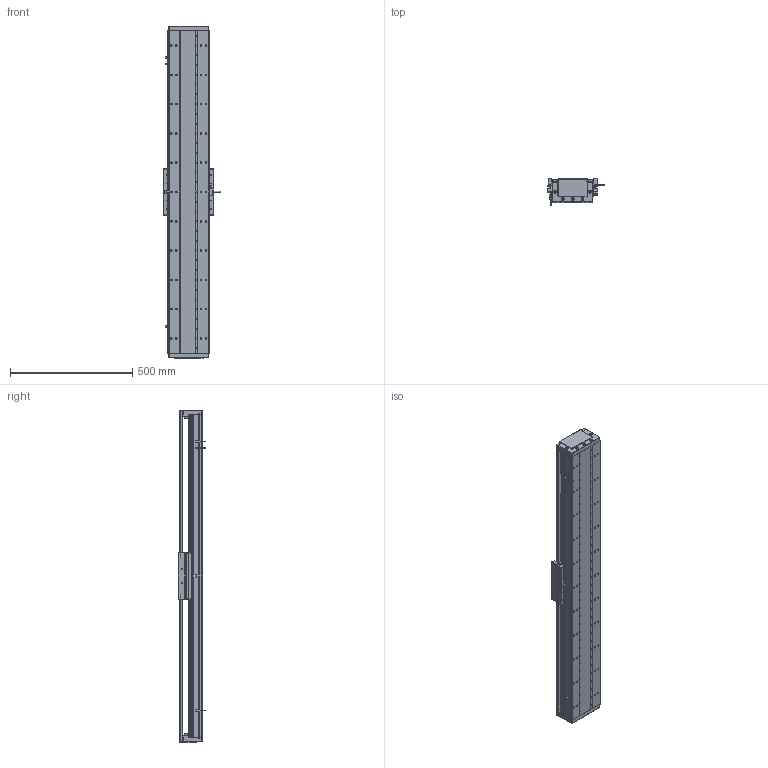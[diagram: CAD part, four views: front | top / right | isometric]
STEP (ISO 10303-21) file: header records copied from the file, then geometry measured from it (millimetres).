
FILE_DESCRIPTION (( 'STEP AP203' ), '1' );
FILE_NAME ('DA-C165-C2-T1080-C010-0.2 直线电机.STEP', '2023-05-11T07:34:13', ( '微软用户' ), ( '微软中国' ), 'SwSTEP 2.0', 'SolidWorks 2019', '' );
FILE_SCHEMA (( 'CONFIG_CONTROL_DESIGN' ));
Length unit declared in the file: millimetre
Products named in the file (15): 复件 DA165-DG-H-N-00 端盖^DA-C165-C2-T-C010-0.2-N 直线电机; IU-CU165-L-00 菁釱_L1320; 复件 六角薄螺母 M3^DA-C165-C2-T-C010-0.2-N 直线电机_GB_FASTENER_NUT_STNAB M3-C; 复件 DA95-HXJ-00 缓冲橡胶^DA-C165-C2-T-C010-0.2-N 直线电机; 珨极趙賑雄怢啣wf-C2; 葩璃 DA95-GT-T-00^IU-CU165-L 菁釱絳寢_T; DA-C165-C2-T1080-C010-0.2 眻盄萇儂; IU-CU165-L 菁釱絳寢; 葩璃 PM-T45^DA-C165-C2-T-C010-0.2-N 眻盄萇儂; 复件 DA165-T-002-00 盖板^DA-C165-C2-T-C010-0.2-N 直线电机_0840-002-00; 复件 DMA-010-0.2 读数头^DA-C165-C2-T-C010-0.2-N 直线电机; 复件 XD-U-02L 磁栅尺^DA-C165-C2-T-C010-0.2-N 直线电机_T; 复件 DA165-GYP-00 光电感应片^DA-C165-C2-T-C010-0.2-N 直线电机; 葩璃 CKM01-W075-TRL^DA-C165-C2-T-C010-0.2-N 眻盄萇儂; 复件 CKM02-W075-C1C2-TP-3.0 一体电机-C2^DA-C165-C2-T-C010-0.2-N 直线电机
Assembly tree (28 placements, depth 3):
  DA-C165-C2-T1080-C010-0.2 眻盄萇儂
    IU-CU165-L 菁釱絳寢
      IU-CU165-L-00 菁釱_L1320
      葩璃 DA95-GT-T-00^IU-CU165-L 菁釱絳寢_T  x4
    复件 DA165-DG-H-N-00 端盖^DA-C165-C2-T-C010-0.2-N 直线电机  x2
    复件 DA95-HXJ-00 缓冲橡胶^DA-C165-C2-T-C010-0.2-N 直线电机  x4
    复件 DA165-T-002-00 盖板^DA-C165-C2-T-C010-0.2-N 直线电机_0840-002-00
    复件 XD-U-02L 磁栅尺^DA-C165-C2-T-C010-0.2-N 直线电机_T
    葩璃 PM-T45^DA-C165-C2-T-C010-0.2-N 眻盄萇儂  x3
    葩璃 CKM01-W075-TRL^DA-C165-C2-T-C010-0.2-N 眻盄萇儂
    复件 DA165-GYP-00 光电感应片^DA-C165-C2-T-C010-0.2-N 直线电机
    复件 DMA-010-0.2 读数头^DA-C165-C2-T-C010-0.2-N 直线电机
    复件 CKM02-W075-C1C2-TP-3.0 一体电机-C2^DA-C165-C2-T-C010-0.2-N 直线电机
    复件 六角薄螺母 M3^DA-C165-C2-T-C010-0.2-N 直线电机_GB_FASTENER_NUT_STNAB M3-C  x6
    珨极趙賑雄怢啣wf-C2
Bounding box: 233 x 111.45 x 1360 mm (x, y, z)
Volume: 9416771.1 mm3; surface area: 2623678.1 mm2
Topology: 66 solids, 66 shells, 3220 faces, 8966 edges, 5651 vertices
Faces by surface type: cylinder 1687, plane 1069, cone 406, torus 54, sphere 4
Entity records: 99709 total; most frequent: CARTESIAN_POINT 24064, DIRECTION 15528, ORIENTED_EDGE 15406, EDGE_CURVE 7703, AXIS2_PLACEMENT_3D 5851, VERTEX_POINT 4987, VECTOR 3826, LINE 3826
